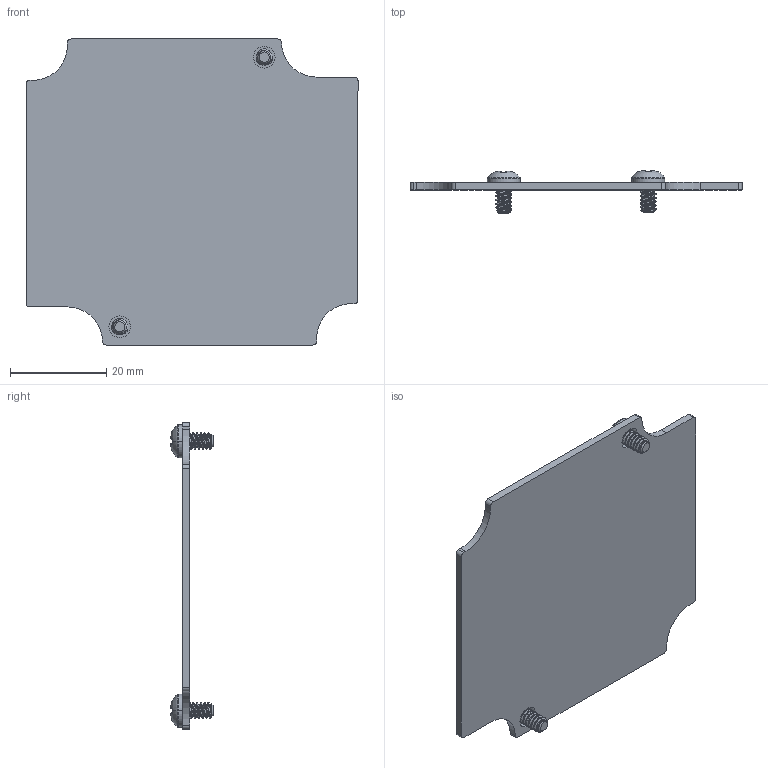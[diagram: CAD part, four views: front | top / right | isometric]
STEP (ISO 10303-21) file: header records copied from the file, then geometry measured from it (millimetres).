
FILE_DESCRIPTION (( 'STEP AP214' ), '1' );
FILE_NAME ('AN-19K.step', '2026-09-17T19:29:50', ( '' ), ( '' ), 'SwSTEP 2.0', 'SolidWorks 2026', '' );
FILE_SCHEMA (( 'AUTOMOTIVE_DESIGN' ));
Length unit declared in the file: inch
Products named in the file (3): SCREWS-050; AN-19-P_DEFAULT; AN-19K
Assembly tree (3 placements, depth 2):
  AN-19K
    AN-19-P_DEFAULT
    SCREWS-050  x2
Bounding box: 69 x 8.8 x 63.6 mm (x, y, z)
Volume: 6310.2 mm3; surface area: 8826.3 mm2
Topology: 3 solids, 3 shells, 698 faces, 1692 edges, 998 vertices
Faces by surface type: bspline 368, cylinder 172, plane 62, sphere 48, cone 40, torus 8
Entity records: 17306 total; most frequent: CARTESIAN_POINT 10047, ORIENTED_EDGE 1766, DIRECTION 1031, EDGE_CURVE 883, VERTEX_POINT 525, B_SPLINE_CURVE_WITH_KNOTS 415, AXIS2_PLACEMENT_3D 378, EDGE_LOOP 368
